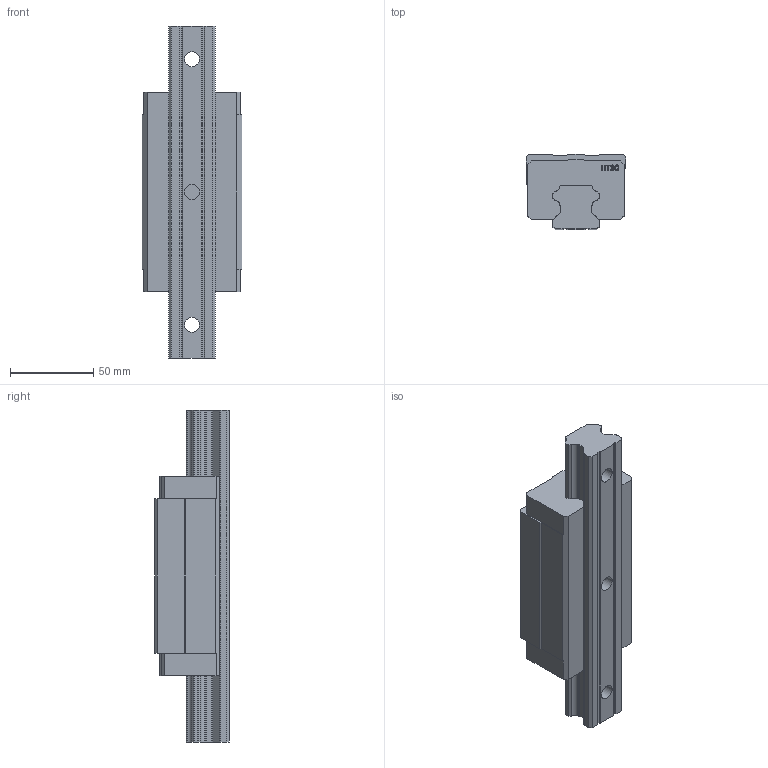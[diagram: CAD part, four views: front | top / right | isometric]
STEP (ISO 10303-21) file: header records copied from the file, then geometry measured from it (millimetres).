
FILE_DESCRIPTION (( 'STEP AP214' ), '1' );
FILE_NAME ('7.1026 Lineaarikelkka HTH30HA.STEP', '2026-03-11T06:51:57', ( '' ), ( '' ), 'SwSTEP 2.0', 'SolidWorks 2025', '' );
FILE_SCHEMA (( 'AUTOMOTIVE_DESIGN' ));
Length unit declared in the file: millimetre
Products named in the file (3): HTR30; HTH30; 7.1026 Lineaarikelkka HTH30HA
Assembly tree (2 placements, depth 2):
  7.1026 Lineaarikelkka HTH30HA
    HTH30
    HTR30
Bounding box: 60 x 45 x 200 mm (x, y, z)
Volume: 327652.8 mm3; surface area: 58680 mm2
Topology: 2 solids, 2 shells, 241 faces, 657 edges, 438 vertices
Faces by surface type: plane 154, cylinder 62, bspline 25
Entity records: 12738 total; most frequent: CARTESIAN_POINT 3906, ORIENTED_EDGE 1314, DIRECTION 1173, EDGE_CURVE 657, VECTOR 483, LINE 483, VERTEX_POINT 438, AXIS2_PLACEMENT_3D 345
